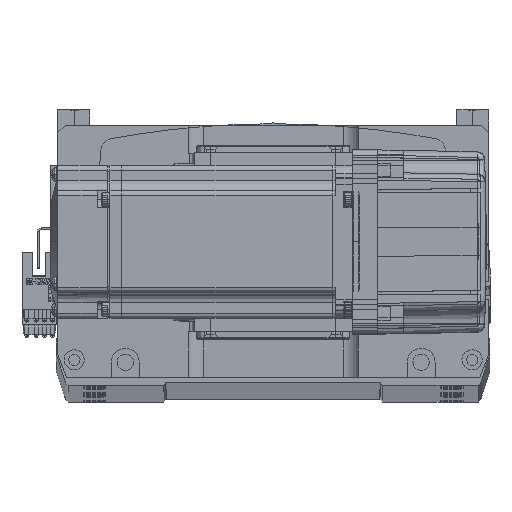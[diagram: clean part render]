
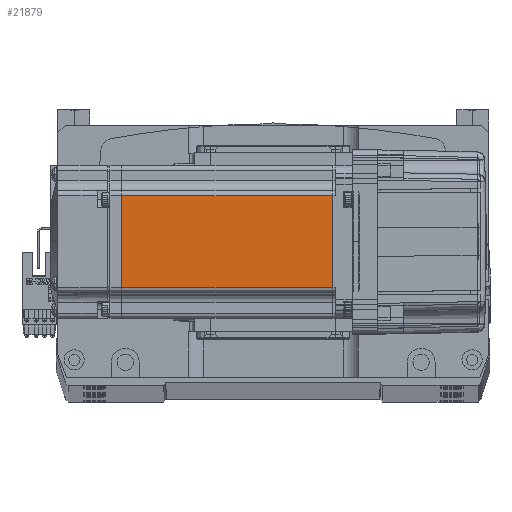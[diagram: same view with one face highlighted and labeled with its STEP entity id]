
A CAD part, top view. The second image highlights one B-rep face of the part: STEP entity #21879.
In plain terms, the highlighted planar face has unit normal (0, 0, 1).
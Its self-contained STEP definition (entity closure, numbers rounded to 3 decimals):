
#2524 = VERTEX_POINT ( 'NONE', #63804 ) ;
#3016 = VERTEX_POINT ( 'NONE', #53728 ) ;
#5774 = CARTESIAN_POINT ( 'NONE',  ( -7.75, 0., 30. ) ) ;
#6678 = LINE ( 'NONE', #5774, #17423 ) ;
#7380 = VERTEX_POINT ( 'NONE', #47045 ) ;
#7608 = FACE_OUTER_BOUND ( 'NONE', #68400, .T. ) ;
#9121 = VERTEX_POINT ( 'NONE', #16939 ) ;
#12747 = VECTOR ( 'NONE', #19021, 1000. ) ;
#16216 = PLANE ( 'NONE',  #59823 ) ;
#16939 = CARTESIAN_POINT ( 'NONE',  ( -7.75, -18., 30. ) ) ;
#17423 = VECTOR ( 'NONE', #51232, 1000. ) ;
#19021 = DIRECTION ( 'NONE',  ( -1., 0., 0. ) ) ;
#20677 = VECTOR ( 'NONE', #40781, 1000. ) ;
#21879 = ADVANCED_FACE ( 'NONE', ( #7608 ), #16216, .T. ) ;
#23280 = LINE ( 'NONE', #27067, #64356 ) ;
#26555 = ORIENTED_EDGE ( 'NONE', *, *, #42532, .F. ) ;
#27067 = CARTESIAN_POINT ( 'NONE',  ( -90.45, 0., 30. ) ) ;
#27438 = DIRECTION ( 'NONE',  ( 1., 0., 0. ) ) ;
#33403 = CARTESIAN_POINT ( 'NONE',  ( -6.5, -25., 30. ) ) ;
#34316 = EDGE_CURVE ( 'NONE', #2524, #3016, #23280, .T. ) ;
#38630 = ORIENTED_EDGE ( 'NONE', *, *, #63059, .T. ) ;
#40781 = DIRECTION ( 'NONE',  ( -1., 0., 0. ) ) ;
#42532 = EDGE_CURVE ( 'NONE', #9121, #3016, #70872, .T. ) ;
#46554 = ORIENTED_EDGE ( 'NONE', *, *, #34316, .T. ) ;
#47045 = CARTESIAN_POINT ( 'NONE',  ( -7.75, 18., 30. ) ) ;
#51232 = DIRECTION ( 'NONE',  ( 0., -1., 0. ) ) ;
#53262 = CARTESIAN_POINT ( 'NONE',  ( -6.5, -18., 30. ) ) ;
#53728 = CARTESIAN_POINT ( 'NONE',  ( -90.45, -18., 30. ) ) ;
#55318 = DIRECTION ( 'NONE',  ( 0., -1., 0. ) ) ;
#58016 = ORIENTED_EDGE ( 'NONE', *, *, #71124, .F. ) ;
#59823 = AXIS2_PLACEMENT_3D ( 'NONE', #33403, #67181, #27438 ) ;
#63059 = EDGE_CURVE ( 'NONE', #7380, #2524, #66277, .T. ) ;
#63804 = CARTESIAN_POINT ( 'NONE',  ( -90.45, 18., 30. ) ) ;
#64356 = VECTOR ( 'NONE', #55318, 1000. ) ;
#66277 = LINE ( 'NONE', #68556, #20677 ) ;
#67181 = DIRECTION ( 'NONE',  ( 0., 0., 1. ) ) ;
#68400 = EDGE_LOOP ( 'NONE', ( #58016, #38630, #46554, #26555 ) ) ;
#68556 = CARTESIAN_POINT ( 'NONE',  ( -6.5, 18., 30. ) ) ;
#70872 = LINE ( 'NONE', #53262, #12747 ) ;
#71124 = EDGE_CURVE ( 'NONE', #7380, #9121, #6678, .T. ) ;
